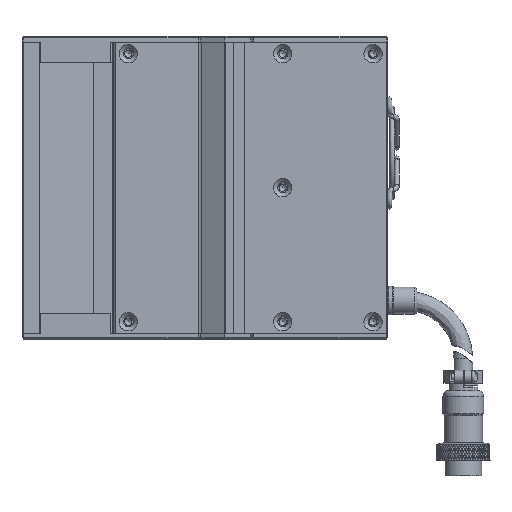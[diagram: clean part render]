
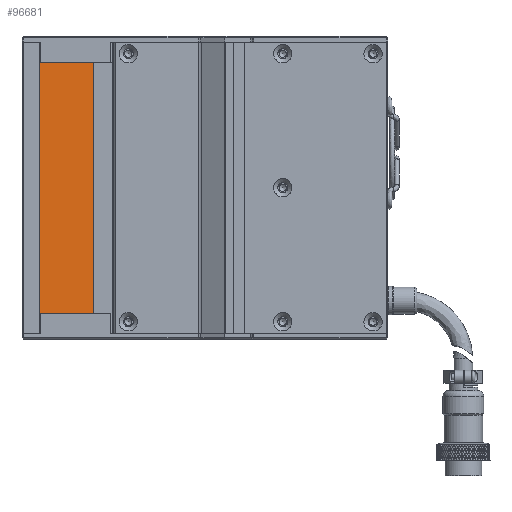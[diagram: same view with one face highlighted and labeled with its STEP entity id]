
A CAD part, left-side view. The second image highlights one B-rep face of the part: STEP entity #96681.
In plain terms, the highlighted planar face has unit normal (-0.707, -0.707, 0).
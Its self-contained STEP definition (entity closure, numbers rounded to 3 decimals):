
#6473 = AXIS2_PLACEMENT_3D ( 'NONE', #26423, #37007, #107815 ) ;
#7092 = DIRECTION ( 'NONE',  ( -0.707, 0.707, 0. ) ) ;
#12529 = CARTESIAN_POINT ( 'NONE',  ( 193.755, 114.779, 249.829 ) ) ;
#12731 = LINE ( 'NONE', #30306, #60166 ) ;
#12954 = EDGE_CURVE ( 'NONE', #64225, #46066, #12731, .T. ) ;
#16632 = ORIENTED_EDGE ( 'NONE', *, *, #12954, .F. ) ;
#18973 = CARTESIAN_POINT ( 'NONE',  ( 171.411, 137.124, 199.829 ) ) ;
#21788 = EDGE_CURVE ( 'NONE', #46066, #76633, #122717, .T. ) ;
#22512 = VECTOR ( 'NONE', #109164, 1000. ) ;
#23002 = ORIENTED_EDGE ( 'NONE', *, *, #21788, .F. ) ;
#26390 = ORIENTED_EDGE ( 'NONE', *, *, #100783, .F. ) ;
#26423 = CARTESIAN_POINT ( 'NONE',  ( 182.583, 125.952, 249.829 ) ) ;
#26585 = CARTESIAN_POINT ( 'NONE',  ( 171.411, 137.124, 299.829 ) ) ;
#30306 = CARTESIAN_POINT ( 'NONE',  ( 182.583, 125.952, 201.829 ) ) ;
#30742 = DIRECTION ( 'NONE',  ( 0.707, -0.707, 0. ) ) ;
#37007 = DIRECTION ( 'NONE',  ( 0.707, 0.707, 0. ) ) ;
#41988 = VECTOR ( 'NONE', #74933, 1000. ) ;
#42543 = VERTEX_POINT ( 'NONE', #129796 ) ;
#43678 = ORIENTED_EDGE ( 'NONE', *, *, #76219, .T. ) ;
#46066 = VERTEX_POINT ( 'NONE', #52754 ) ;
#51431 = FACE_OUTER_BOUND ( 'NONE', #62938, .T. ) ;
#52578 = LINE ( 'NONE', #89087, #77954 ) ;
#52754 = CARTESIAN_POINT ( 'NONE',  ( 193.755, 114.779, 201.829 ) ) ;
#58966 = DIRECTION ( 'NONE',  ( 0., 0., -1. ) ) ;
#60166 = VECTOR ( 'NONE', #30742, 1000. ) ;
#60559 = VERTEX_POINT ( 'NONE', #26585 ) ;
#62938 = EDGE_LOOP ( 'NONE', ( #26390, #107967, #76338, #43678, #23002, #16632 ) ) ;
#64225 = VERTEX_POINT ( 'NONE', #122380 ) ;
#65022 = VECTOR ( 'NONE', #116398, 1000. ) ;
#69113 = CARTESIAN_POINT ( 'NONE',  ( 191.641, 116.894, 299.829 ) ) ;
#70723 = LINE ( 'NONE', #69113, #110323 ) ;
#74933 = DIRECTION ( 'NONE',  ( 0., 0., -1. ) ) ;
#75729 = CARTESIAN_POINT ( 'NONE',  ( 171.411, 137.124, 249.829 ) ) ;
#76219 = EDGE_CURVE ( 'NONE', #102210, #76633, #87440, .T. ) ;
#76338 = ORIENTED_EDGE ( 'NONE', *, *, #116181, .F. ) ;
#76633 = VERTEX_POINT ( 'NONE', #118290 ) ;
#77954 = VECTOR ( 'NONE', #58966, 1000. ) ;
#85556 = LINE ( 'NONE', #75729, #65022 ) ;
#87440 = LINE ( 'NONE', #129101, #22512 ) ;
#89087 = CARTESIAN_POINT ( 'NONE',  ( 191.641, 116.894, 188.657 ) ) ;
#96681 = ADVANCED_FACE ( 'NONE', ( #51431 ), #97682, .F. ) ;
#97682 = PLANE ( 'NONE',  #6473 ) ;
#100783 = EDGE_CURVE ( 'NONE', #42543, #64225, #52578, .T. ) ;
#102210 = VERTEX_POINT ( 'NONE', #18973 ) ;
#107815 = DIRECTION ( 'NONE',  ( -0.707, 0.707, 0. ) ) ;
#107967 = ORIENTED_EDGE ( 'NONE', *, *, #121325, .T. ) ;
#109164 = DIRECTION ( 'NONE',  ( 0.707, -0.707, 0. ) ) ;
#110323 = VECTOR ( 'NONE', #7092, 1000. ) ;
#116181 = EDGE_CURVE ( 'NONE', #102210, #60559, #85556, .T. ) ;
#116398 = DIRECTION ( 'NONE',  ( 0., 0., 1. ) ) ;
#118290 = CARTESIAN_POINT ( 'NONE',  ( 193.755, 114.779, 199.829 ) ) ;
#121325 = EDGE_CURVE ( 'NONE', #42543, #60559, #70723, .T. ) ;
#122380 = CARTESIAN_POINT ( 'NONE',  ( 191.641, 116.894, 201.829 ) ) ;
#122717 = LINE ( 'NONE', #12529, #41988 ) ;
#129101 = CARTESIAN_POINT ( 'NONE',  ( 171.411, 137.124, 199.829 ) ) ;
#129796 = CARTESIAN_POINT ( 'NONE',  ( 191.641, 116.894, 299.829 ) ) ;
